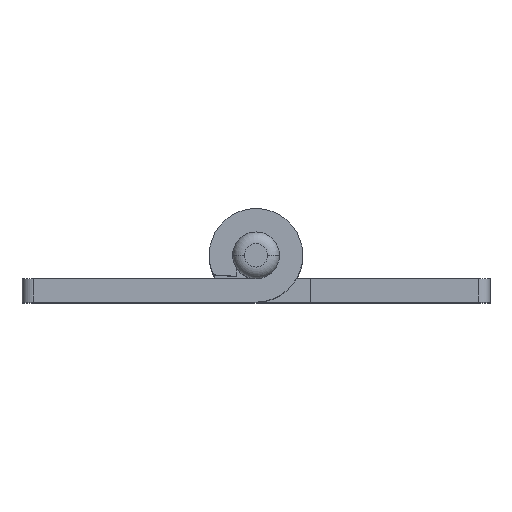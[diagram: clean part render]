
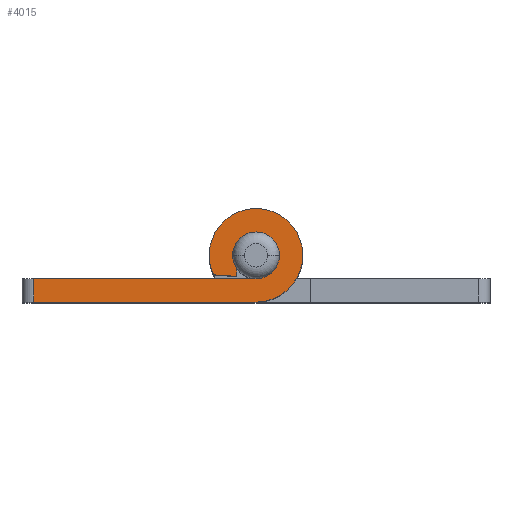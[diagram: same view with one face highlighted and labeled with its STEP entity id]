
A CAD part, top view. The second image highlights one B-rep face of the part: STEP entity #4015.
In plain terms, the highlighted planar face has unit normal (0, 0, 1).
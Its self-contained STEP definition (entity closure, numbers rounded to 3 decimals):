
#74 = LINE ( 'NONE', #7953, #6594 ) ;
#132 = CARTESIAN_POINT ( 'NONE',  ( -28.5, -3., 0. ) ) ;
#259 = CIRCLE ( 'NONE', #5729, 3. ) ;
#279 = LINE ( 'NONE', #5998, #5112 ) ;
#294 = CARTESIAN_POINT ( 'NONE',  ( -5.454, -2.5, 0. ) ) ;
#366 = LINE ( 'NONE', #1610, #6479 ) ;
#385 = LINE ( 'NONE', #4194, #3748 ) ;
#429 = DIRECTION ( 'NONE',  ( 1., 0., 0. ) ) ;
#433 = DIRECTION ( 'NONE',  ( 1., 0., 0. ) ) ;
#442 = EDGE_CURVE ( 'NONE', #3917, #1495, #1904, .T. ) ;
#461 = CARTESIAN_POINT ( 'NONE',  ( -28.5, -6., 0. ) ) ;
#484 = LINE ( 'NONE', #2438, #3652 ) ;
#551 = CIRCLE ( 'NONE', #7013, 6. ) ;
#570 = CARTESIAN_POINT ( 'NONE',  ( -6., 0., 0. ) ) ;
#625 = VERTEX_POINT ( 'NONE', #461 ) ;
#677 = DIRECTION ( 'NONE',  ( 0., 0., 1. ) ) ;
#691 = PLANE ( 'NONE',  #4009 ) ;
#976 = LINE ( 'NONE', #2113, #5788 ) ;
#1085 = AXIS2_PLACEMENT_3D ( 'NONE', #7274, #3496, #7900 ) ;
#1230 = ORIENTED_EDGE ( 'NONE', *, *, #1236, .T. ) ;
#1236 = EDGE_CURVE ( 'NONE', #3521, #2460, #551, .T. ) ;
#1342 = CIRCLE ( 'NONE', #8113, 3. ) ;
#1493 = ORIENTED_EDGE ( 'NONE', *, *, #5618, .F. ) ;
#1495 = VERTEX_POINT ( 'NONE', #2881 ) ;
#1506 = ORIENTED_EDGE ( 'NONE', *, *, #5728, .T. ) ;
#1610 = CARTESIAN_POINT ( 'NONE',  ( 0., -3., 0. ) ) ;
#1626 = EDGE_CURVE ( 'NONE', #3132, #5636, #1342, .T. ) ;
#1904 = CIRCLE ( 'NONE', #5217, 6. ) ;
#1970 = CARTESIAN_POINT ( 'NONE',  ( 0., 0., 0. ) ) ;
#1979 = ORIENTED_EDGE ( 'NONE', *, *, #442, .T. ) ;
#2086 = EDGE_LOOP ( 'NONE', ( #6826, #3809, #5351, #1979, #1506, #1230, #3579, #4503, #4973, #2123, #1493, #2516 ) ) ;
#2113 = CARTESIAN_POINT ( 'NONE',  ( 0., -2.5, 0. ) ) ;
#2123 = ORIENTED_EDGE ( 'NONE', *, *, #2947, .F. ) ;
#2125 = DIRECTION ( 'NONE',  ( 0., 0., 1. ) ) ;
#2246 = DIRECTION ( 'NONE',  ( -1., 0., 0. ) ) ;
#2260 = CIRCLE ( 'NONE', #1085, 6. ) ;
#2438 = CARTESIAN_POINT ( 'NONE',  ( -28.5, 0., 0. ) ) ;
#2460 = VERTEX_POINT ( 'NONE', #294 ) ;
#2463 = DIRECTION ( 'NONE',  ( 0., -1., 0. ) ) ;
#2516 = ORIENTED_EDGE ( 'NONE', *, *, #1626, .F. ) ;
#2582 = DIRECTION ( 'NONE',  ( 1., 0., 0. ) ) ;
#2877 = CARTESIAN_POINT ( 'NONE',  ( -2.454, -1.725, 0. ) ) ;
#2881 = CARTESIAN_POINT ( 'NONE',  ( 6., 0., 0. ) ) ;
#2901 = CARTESIAN_POINT ( 'NONE',  ( 0., 0., 0. ) ) ;
#2947 = EDGE_CURVE ( 'NONE', #5959, #4938, #259, .T. ) ;
#2981 = EDGE_CURVE ( 'NONE', #8084, #7309, #385, .T. ) ;
#3049 = CARTESIAN_POINT ( 'NONE',  ( -5.451, -2.5, 0. ) ) ;
#3132 = VERTEX_POINT ( 'NONE', #3712 ) ;
#3269 = CARTESIAN_POINT ( 'NONE',  ( 3., 0., 0. ) ) ;
#3276 = VERTEX_POINT ( 'NONE', #132 ) ;
#3496 = DIRECTION ( 'NONE',  ( 0., 0., 1. ) ) ;
#3521 = VERTEX_POINT ( 'NONE', #570 ) ;
#3556 = DIRECTION ( 'NONE',  ( 1., 0., 0. ) ) ;
#3579 = ORIENTED_EDGE ( 'NONE', *, *, #8124, .F. ) ;
#3581 = DIRECTION ( 'NONE',  ( -1., 0., 0. ) ) ;
#3652 = VECTOR ( 'NONE', #2463, 1000. ) ;
#3712 = CARTESIAN_POINT ( 'NONE',  ( 0., -3., 0. ) ) ;
#3748 = VECTOR ( 'NONE', #7394, 1000. ) ;
#3809 = ORIENTED_EDGE ( 'NONE', *, *, #6830, .T. ) ;
#3917 = VERTEX_POINT ( 'NONE', #7542 ) ;
#4009 = AXIS2_PLACEMENT_3D ( 'NONE', #1970, #6352, #2582 ) ;
#4015 = ADVANCED_FACE ( 'NONE', ( #6384 ), #691, .T. ) ;
#4131 = CIRCLE ( 'NONE', #7157, 3. ) ;
#4194 = CARTESIAN_POINT ( 'NONE',  ( -0.19, -2.851, 0. ) ) ;
#4219 = DIRECTION ( 'NONE',  ( 0., 0., 1. ) ) ;
#4227 = DIRECTION ( 'NONE',  ( 0., 0., 1. ) ) ;
#4449 = CARTESIAN_POINT ( 'NONE',  ( 0., 0., 0. ) ) ;
#4503 = ORIENTED_EDGE ( 'NONE', *, *, #2981, .F. ) ;
#4581 = CARTESIAN_POINT ( 'NONE',  ( -2.454, -2.7, 0. ) ) ;
#4917 = EDGE_CURVE ( 'NONE', #4938, #8084, #279, .T. ) ;
#4938 = VERTEX_POINT ( 'NONE', #2877 ) ;
#4973 = ORIENTED_EDGE ( 'NONE', *, *, #4917, .F. ) ;
#4979 = EDGE_CURVE ( 'NONE', #3917, #625, #74, .T. ) ;
#5085 = DIRECTION ( 'NONE',  ( 1., 0., 0. ) ) ;
#5112 = VECTOR ( 'NONE', #5393, 1000. ) ;
#5217 = AXIS2_PLACEMENT_3D ( 'NONE', #7990, #4227, #433 ) ;
#5243 = DIRECTION ( 'NONE',  ( -1., 0., 0. ) ) ;
#5351 = ORIENTED_EDGE ( 'NONE', *, *, #4979, .F. ) ;
#5393 = DIRECTION ( 'NONE',  ( 0., -1., 0. ) ) ;
#5618 = EDGE_CURVE ( 'NONE', #5636, #5959, #4131, .T. ) ;
#5636 = VERTEX_POINT ( 'NONE', #3269 ) ;
#5728 = EDGE_CURVE ( 'NONE', #1495, #3521, #2260, .T. ) ;
#5729 = AXIS2_PLACEMENT_3D ( 'NONE', #7987, #4219, #429 ) ;
#5788 = VECTOR ( 'NONE', #5243, 1000. ) ;
#5878 = CARTESIAN_POINT ( 'NONE',  ( 0., 0., 0. ) ) ;
#5959 = VERTEX_POINT ( 'NONE', #6174 ) ;
#5998 = CARTESIAN_POINT ( 'NONE',  ( -2.454, 0., 0. ) ) ;
#6174 = CARTESIAN_POINT ( 'NONE',  ( -3., 0., 0. ) ) ;
#6352 = DIRECTION ( 'NONE',  ( 0., 0., 1. ) ) ;
#6384 = FACE_OUTER_BOUND ( 'NONE', #2086, .T. ) ;
#6479 = VECTOR ( 'NONE', #2246, 1000. ) ;
#6511 = DIRECTION ( 'NONE',  ( 1., 0., 0. ) ) ;
#6594 = VECTOR ( 'NONE', #3581, 1000. ) ;
#6826 = ORIENTED_EDGE ( 'NONE', *, *, #7708, .T. ) ;
#6830 = EDGE_CURVE ( 'NONE', #3276, #625, #484, .T. ) ;
#7013 = AXIS2_PLACEMENT_3D ( 'NONE', #4449, #677, #5085 ) ;
#7157 = AXIS2_PLACEMENT_3D ( 'NONE', #5878, #2125, #6511 ) ;
#7274 = CARTESIAN_POINT ( 'NONE',  ( 0., 0., 0. ) ) ;
#7309 = VERTEX_POINT ( 'NONE', #3049 ) ;
#7334 = DIRECTION ( 'NONE',  ( 0., 0., 1. ) ) ;
#7394 = DIRECTION ( 'NONE',  ( -0.998, 0.067, 0. ) ) ;
#7542 = CARTESIAN_POINT ( 'NONE',  ( 0., -6., 0. ) ) ;
#7708 = EDGE_CURVE ( 'NONE', #3132, #3276, #366, .T. ) ;
#7900 = DIRECTION ( 'NONE',  ( 1., 0., 0. ) ) ;
#7953 = CARTESIAN_POINT ( 'NONE',  ( 0., -6., 0. ) ) ;
#7987 = CARTESIAN_POINT ( 'NONE',  ( 0., 0., 0. ) ) ;
#7990 = CARTESIAN_POINT ( 'NONE',  ( 0., 0., 0. ) ) ;
#8084 = VERTEX_POINT ( 'NONE', #4581 ) ;
#8113 = AXIS2_PLACEMENT_3D ( 'NONE', #2901, #7334, #3556 ) ;
#8124 = EDGE_CURVE ( 'NONE', #7309, #2460, #976, .T. ) ;
